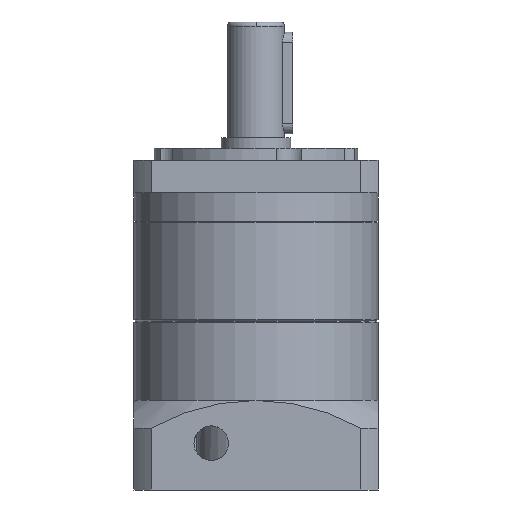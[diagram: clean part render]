
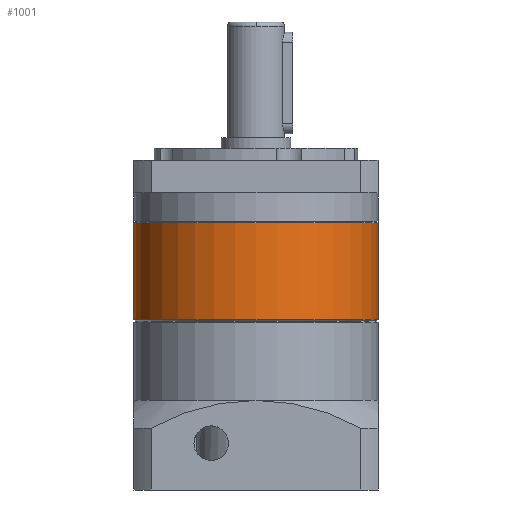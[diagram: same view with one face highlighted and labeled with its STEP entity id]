
A CAD part, front view. The second image highlights one B-rep face of the part: STEP entity #1001.
In plain terms, the highlighted cylindrical face has radius 30 mm (diameter 60 mm), a partial arc.
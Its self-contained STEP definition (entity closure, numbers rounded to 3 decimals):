
#389 = DIRECTION ( 'NONE',  ( 1., 0., 0. ) ) ;
#1001 = ADVANCED_FACE ( 'NONE', ( #37966 ), #27355, .T. ) ;
#1790 = VECTOR ( 'NONE', #17484, 1000. ) ;
#2946 = LINE ( 'NONE', #38811, #1790 ) ;
#4337 = CIRCLE ( 'NONE', #40930, 30. ) ;
#4670 = CARTESIAN_POINT ( 'NONE',  ( 0., 0., -0.3 ) ) ;
#8263 = DIRECTION ( 'NONE',  ( 1., 0., 0. ) ) ;
#8361 = VERTEX_POINT ( 'NONE', #18786 ) ;
#12136 = CIRCLE ( 'NONE', #28613, 30. ) ;
#12473 = ORIENTED_EDGE ( 'NONE', *, *, #18760, .T. ) ;
#13420 = CARTESIAN_POINT ( 'NONE',  ( 30., 0., 0. ) ) ;
#14013 = VERTEX_POINT ( 'NONE', #44866 ) ;
#14731 = CARTESIAN_POINT ( 'NONE',  ( 0., 0., 0. ) ) ;
#17006 = DIRECTION ( 'NONE',  ( 0., 0., 1. ) ) ;
#17147 = ORIENTED_EDGE ( 'NONE', *, *, #40321, .T. ) ;
#17338 = DIRECTION ( 'NONE',  ( 0., 0., 1. ) ) ;
#17401 = EDGE_CURVE ( 'NONE', #33696, #14013, #4337, .T. ) ;
#17484 = DIRECTION ( 'NONE',  ( 0., 0., 1. ) ) ;
#18760 = EDGE_CURVE ( 'NONE', #14013, #8361, #25393, .T. ) ;
#18786 = CARTESIAN_POINT ( 'NONE',  ( 30., 0., -0.3 ) ) ;
#21384 = EDGE_CURVE ( 'NONE', #33696, #24300, #2946, .T. ) ;
#23548 = CARTESIAN_POINT ( 'NONE',  ( -30., 0., -24.2 ) ) ;
#24288 = VECTOR ( 'NONE', #17006, 1000. ) ;
#24300 = VERTEX_POINT ( 'NONE', #36572 ) ;
#25393 = LINE ( 'NONE', #13420, #24288 ) ;
#27355 = CYLINDRICAL_SURFACE ( 'NONE', #38337, 30. ) ;
#28613 = AXIS2_PLACEMENT_3D ( 'NONE', #4670, #29576, #8263 ) ;
#29576 = DIRECTION ( 'NONE',  ( 0., 0., -1. ) ) ;
#33696 = VERTEX_POINT ( 'NONE', #23548 ) ;
#36072 = DIRECTION ( 'NONE',  ( 0., 0., 1. ) ) ;
#36572 = CARTESIAN_POINT ( 'NONE',  ( -30., 0., -0.3 ) ) ;
#37652 = EDGE_LOOP ( 'NONE', ( #40992, #38368, #12473, #17147 ) ) ;
#37966 = FACE_OUTER_BOUND ( 'NONE', #37652, .T. ) ;
#38337 = AXIS2_PLACEMENT_3D ( 'NONE', #14731, #36072, #389 ) ;
#38368 = ORIENTED_EDGE ( 'NONE', *, *, #17401, .T. ) ;
#38660 = CARTESIAN_POINT ( 'NONE',  ( 0., 0., -24.2 ) ) ;
#38811 = CARTESIAN_POINT ( 'NONE',  ( -30., 0., 0. ) ) ;
#40321 = EDGE_CURVE ( 'NONE', #8361, #24300, #12136, .T. ) ;
#40930 = AXIS2_PLACEMENT_3D ( 'NONE', #38660, #17338, #42236 ) ;
#40992 = ORIENTED_EDGE ( 'NONE', *, *, #21384, .F. ) ;
#42236 = DIRECTION ( 'NONE',  ( 1., 0., 0. ) ) ;
#44866 = CARTESIAN_POINT ( 'NONE',  ( 30., 0., -24.2 ) ) ;
